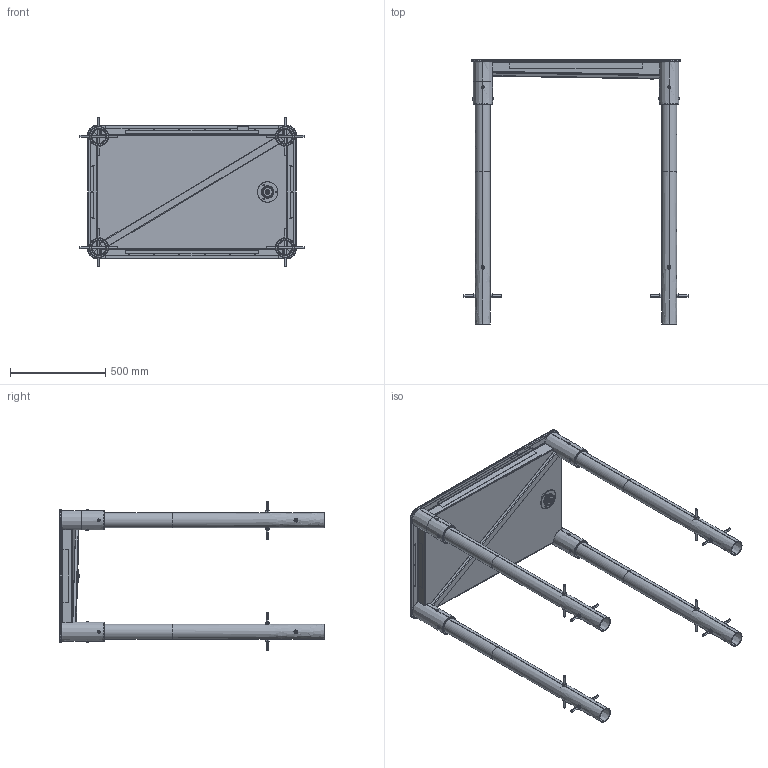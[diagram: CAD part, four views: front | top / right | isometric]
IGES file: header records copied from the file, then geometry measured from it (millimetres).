
Start section: SolidWorks IGES file using analytic representation for surfaces
Global section: file name: C:\Users\user18\OneDrive - KBT\Pulpit\KORONA-KOPIA\Water_Arek_Karol\XXX. Basic Water System\570.202.030.01x Mud Pool - 59cm\11. Modele 3D dla klientów\570.202.030.012 - Mud pool 59cm CA.IGS; native system: SolidWorks 2018; preprocessor: SolidWorks 2018; author: user18; date: 210325.092326; units: millimetre
Bounding box: 1178 x 1391.1 x 785 mm (x, y, z)
Surface area: 5302609.7 mm2 (no closed solid volume)
Topology: 0 solids, 0 shells, 755 faces, 14621 edges, 14613 vertices
Faces by surface type: bspline 438, revolution 317
